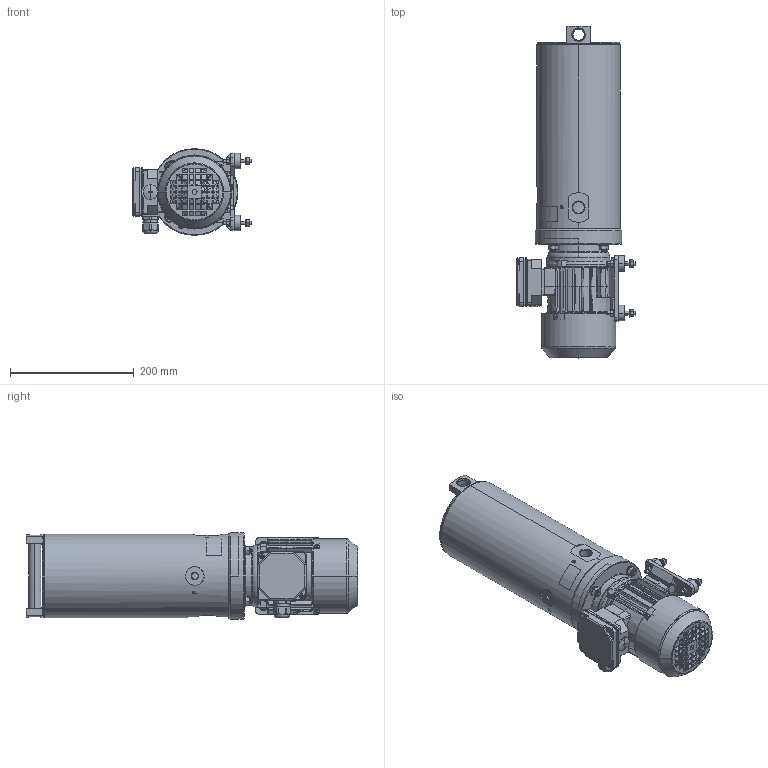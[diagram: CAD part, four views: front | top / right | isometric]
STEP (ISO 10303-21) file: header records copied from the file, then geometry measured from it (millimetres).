
FILE_DESCRIPTION((''),'2;1');
FILE_NAME('FNA_008-1553_COSTUMER','2017-10-26T',('f.kollmann'),(''),'PRO/ENGINEER BY PARAMETRIC TECHNOLOGY CORPORATION, 2015110','PRO/ENGINEER BY PARAMETRIC TECHNOLOGY CORPORATION, 2015110','');
FILE_SCHEMA(('AUTOMOTIVE_DESIGN { 1 0 10303 214 1 1 1 1 }'));
Products named in the file (1): FNA_008-1553_COSTUMER
Bounding box: 192.03 x 535.7 x 140 mm (x, y, z)
Volume: 5899051 mm3; surface area: 485033.2 mm2
Topology: 2 solids, 37 shells, 2537 faces, 7560 edges, 5147 vertices
Faces by surface type: plane 1169, cylinder 802, cone 370, torus 104, bspline 68, extrusion 17, sphere 7
Entity records: 133938 total; most frequent: CARTESIAN_POINT 29434, ORIENTED_EDGE 14984, DIRECTION 14028, PRESENTATION_STYLE_ASSIGNMENT 9377, STYLED_ITEM 7529, CURVE_STYLE 7519, EDGE_CURVE 7513, AXIS2_PLACEMENT_3D 5300
